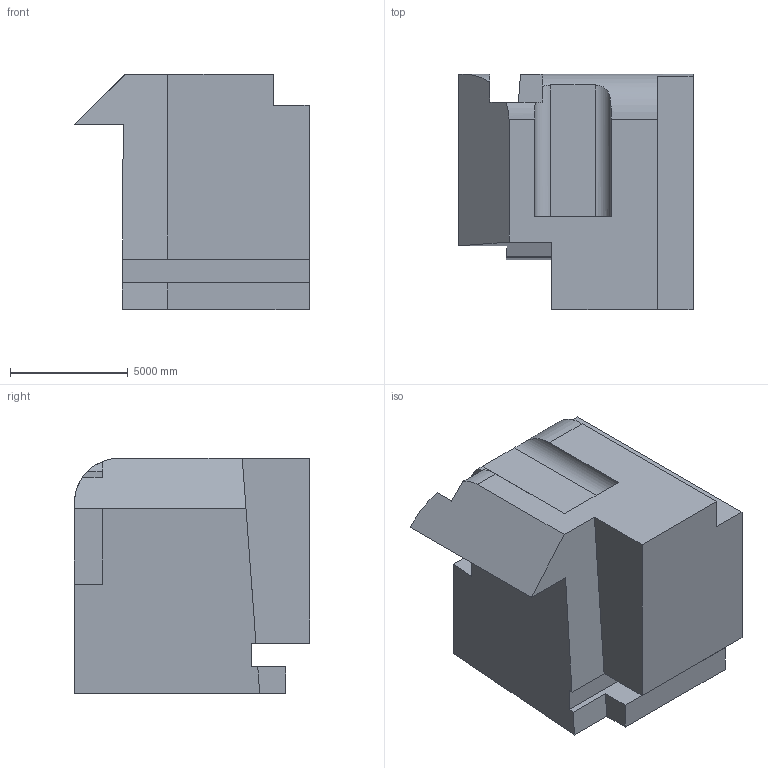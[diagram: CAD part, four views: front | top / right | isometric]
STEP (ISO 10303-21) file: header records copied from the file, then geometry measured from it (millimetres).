
FILE_DESCRIPTION (( 'STEP AP203' ), '1' );
FILE_NAME ('1839.STEP', '2022-08-19T13:24:35', ( 'user' ), ( '' ), 'SwSTEP 2.0', 'SolidWorks 2021', '' );
FILE_SCHEMA (( 'CONFIG_CONTROL_DESIGN' ));
Length unit declared in the file: centimetre
Products named in the file (1): 1839
Bounding box: 9948.18 x 10000 x 10000 mm (x, y, z)
Volume: 676416754908.6 mm3; surface area: 534407766 mm2
Topology: 1 solids, 1 shells, 30 faces, 84 edges, 56 vertices
Faces by surface type: plane 25, cylinder 5
Entity records: 1157 total; most frequent: CARTESIAN_POINT 308, ORIENTED_EDGE 168, DIRECTION 148, EDGE_CURVE 84, VECTOR 72, LINE 72, VERTEX_POINT 56, AXIS2_PLACEMENT_3D 38
